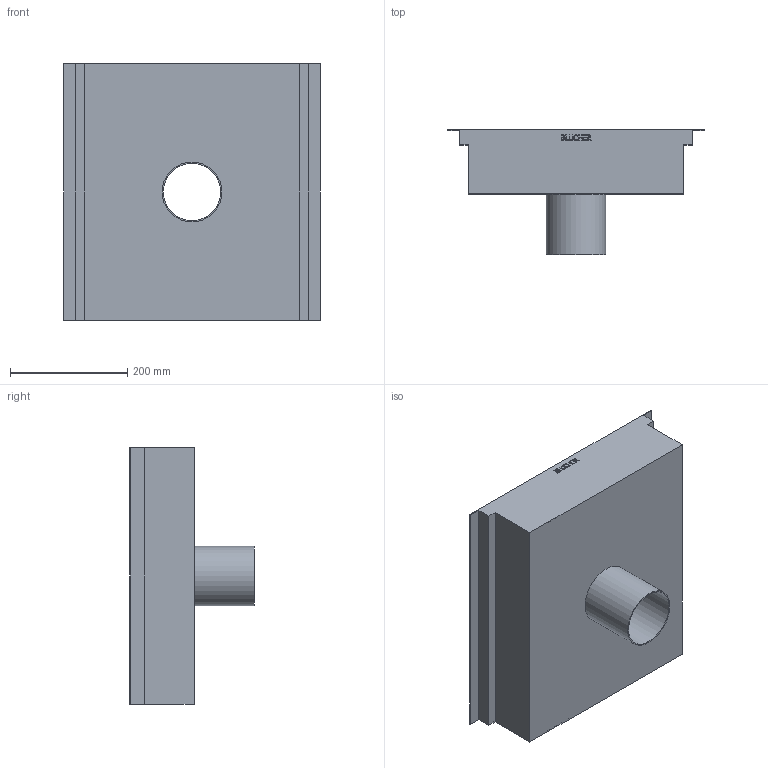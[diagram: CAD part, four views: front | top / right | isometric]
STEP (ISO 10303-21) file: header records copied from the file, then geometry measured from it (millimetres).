
FILE_DESCRIPTION((''),'2;1');
FILE_NAME('I:\WATTS\3D_CAD\3D_CAD_Models\Blucher_Drains\BKC_KitchenChannels\BKC-100\WebsiteFiles\3D\STEP\BKC-104-4.stp','2009-11-23T15:47:45',('menesek'),(''),'Autodesk Inventor 2010','Autodesk Inventor 2010','');
FILE_SCHEMA(('AUTOMOTIVE_DESIGN { 1 0 10303 214 1 1 1 1 }'));
Length unit declared in the file: inch
Products named in the file (1): BKC-104-4
Bounding box: 437 x 213 x 437 mm (x, y, z)
Volume: 779864.9 mm3; surface area: 784100.6 mm2
Topology: 1 solids, 1 shells, 142 faces, 384 edges, 256 vertices
Faces by surface type: plane 95, bspline 45, cylinder 2
Full cylindrical faces by diameter (mm): 97.6 x1, 101.6 x1
Entity records: 4799 total; most frequent: CARTESIAN_POINT 1501, ORIENTED_EDGE 764, DIRECTION 492, EDGE_CURVE 382, VECTOR 288, LINE 288, VERTEX_POINT 256, EDGE_LOOP 158
